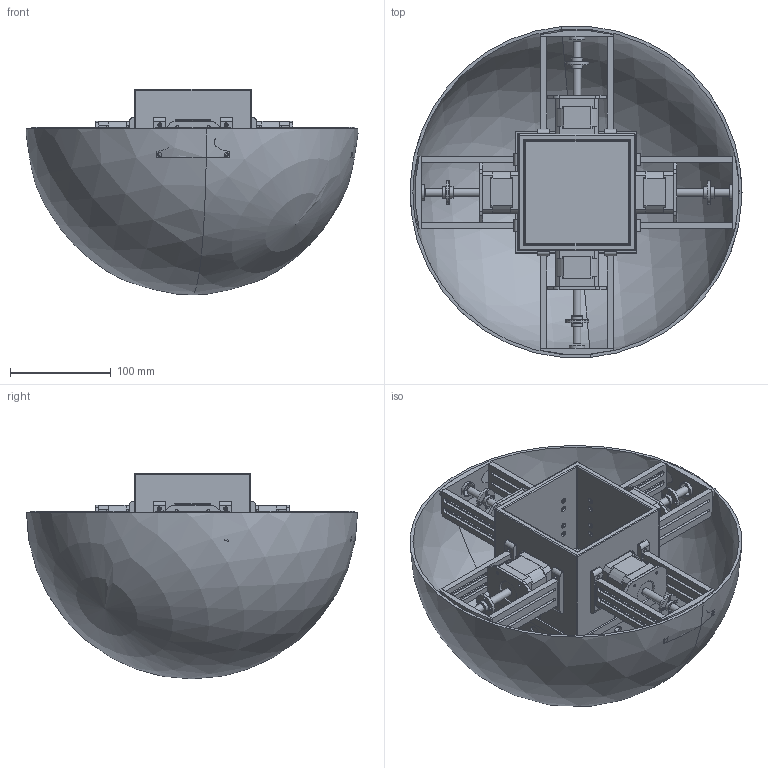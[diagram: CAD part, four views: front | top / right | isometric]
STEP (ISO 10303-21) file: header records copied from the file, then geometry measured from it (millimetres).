
FILE_DESCRIPTION(/* description */ (''),/* implementation_level */ '2;1');
FILE_NAME(/* name */ 'C:/Users/Rasika Jadhav/Downloads/Mission 2 FLoatSat/ASSEMBLY v26.step',/* time_stamp */ '2022-05-16T03:01:39+02:00',/* author */ (''),/* organization */ (''),/* preprocessor_version */ 'ST-DEVELOPER v18.1',/* originating_system */ 'Autodesk Translation Framework v10.14.0.1471',/* authorisation */ '');
FILE_SCHEMA (('AUTOMOTIVE_DESIGN { 1 0 10303 214 3 1 1 }'));
Length unit declared in the file: millimetre
Products named in the file (23): ASSEMBLY; ELE box; subasssembly; Slider v1(Mirror); Slider; Slider v1(Mirror) (2); Slider v1(Mirror) (3); Slider v1(Mirror) (2)(Mirror); Slider v1(Mirror) (2)(Mirror) (1); Slider v1(Mirror) (4); Slider v1(Mirror)(Mirror) (1); Rod; Stepper_Motor (1); Stepper_Motor_Holder (1) v3(Mirror); Stepper_Motor_Holder (1); Ring; Fixture; Fixture v5(Mirror); Fixture v5(Mirror) (1); baseeee; ass; test bed new 1; test bed new
Assembly tree (35 placements, depth 3):
  ASSEMBLY
    ELE box
    subasssembly
      Slider  x2
      Slider v1(Mirror)
      Slider v1(Mirror) (2)
      Slider v1(Mirror) (3)
      Slider v1(Mirror) (2)(Mirror)
      Slider v1(Mirror) (2)(Mirror) (1)
      Rod  x4
      Slider v1(Mirror) (4)
      Slider v1(Mirror)(Mirror) (1)
      Stepper_Motor (1)  x4
      Stepper_Motor_Holder (1)  x3
      Stepper_Motor_Holder (1) v3(Mirror)
      Ring  x4
      Fixture  x2
      Fixture v5(Mirror)
      Fixture v5(Mirror) (1)
    baseeee
    ass
      test bed new 1
      test bed new
Bounding box: 329.89 x 328.88 x 204.47 mm (x, y, z)
Volume: 2126989.8 mm3; surface area: 805148.1 mm2
Topology: 35 solids, 35 shells, 1762 faces, 4135 edges, 2644 vertices
Faces by surface type: plane 846, cylinder 648, torus 168, cone 51, sphere 37, bspline 12
Full cylindrical faces by diameter (mm): 1.371 x16, 1.6 x18, 1.623 x32, 1.8 x28, 2 x53, 2.5 x18, 2.8 x16, 3 x16, 3.5 x32, 4 x46, 5 x8, 6.035 x4, 7 x8, 7.866 x4, 10 x4, 11 x8, 13.2 x4, 15.5 x4, 16 x1, 22 x4, 23 x4, 24 x4, 32.5 x4
Entity records: 37567 total; most frequent: CARTESIAN_POINT 7733, DIRECTION 6415, ORIENTED_EDGE 5622, EDGE_CURVE 2811, AXIS2_PLACEMENT_3D 2452, VERTEX_POINT 1805, EDGE_LOOP 1587, LINE 1511
